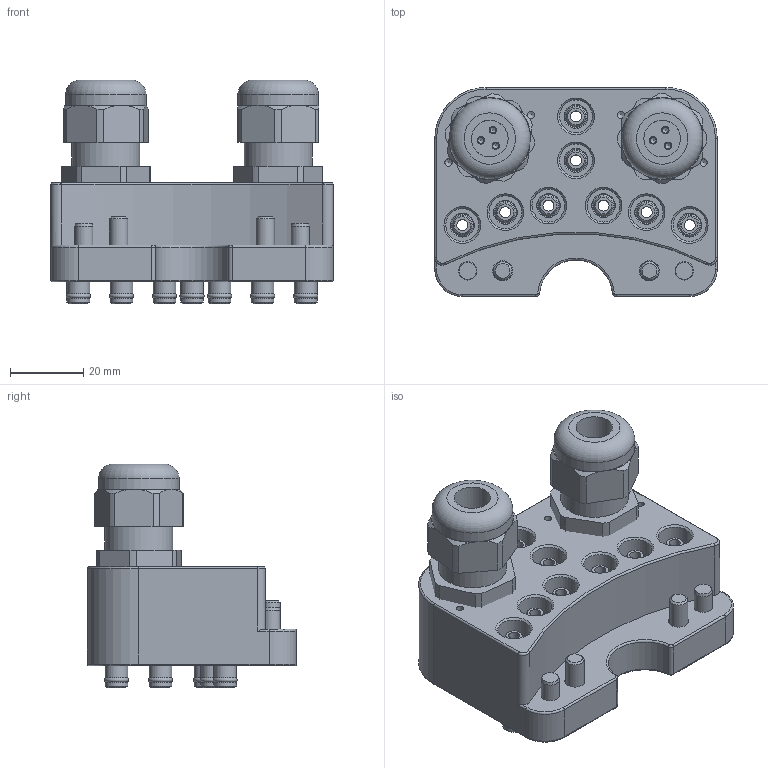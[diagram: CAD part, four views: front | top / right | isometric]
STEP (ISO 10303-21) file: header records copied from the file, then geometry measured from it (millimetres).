
FILE_DESCRIPTION(/* description */ (''),/* implementation_level */ '2;1');
FILE_NAME(/* name */ '\\dc01\daten\CAD\Standard\Daten\3D-Datenbank\Webseite 2020\MGW\MGW160\G-MEK160-O-8Pk4-2E12.stp',/* time_stamp */ '2020-04-29T11:48:45+02:00',/* author */ ('Splieth'),/* organization */ (''),/* preprocessor_version */ 'ST-DEVELOPER v17',/* originating_system */ 'Autodesk Inventor 2018',/* authorisation */ '');
FILE_SCHEMA (('AUTOMOTIVE_DESIGN { 1 0 10303 214 3 1 1 }'));
Length unit declared in the file: millimetre
Products named in the file (1): G-MEK160-O-8Pk4-2E12
Bounding box: 77 x 57 x 61 mm (x, y, z)
Volume: 94590.7 mm3; surface area: 49643.4 mm2
Topology: 51 solids, 51 shells, 841 faces, 2228 edges, 1551 vertices
Faces by surface type: cylinder 338, plane 328, cone 118, torus 29, sphere 24, bspline 4
Full cylindrical faces by diameter (mm): 1 x24, 1.6 x24, 2 x50, 2.013 x4, 2.7 x24, 3 x8, 4 x8, 4.2 x8, 4.8 x8, 5 x4, 5.02 x2, 5.5 x10, 5.9 x8, 6 x8, 6.2 x16, 8 x8, 8.3 x8, 8.5 x2, 9 x8, 10 x4, 14 x2, 15.9 x2, 17.1 x2, 18.1 x2, 18.5 x2, 22 x2, 23 x4, 25.5 x2
Entity records: 29040 total; most frequent: CARTESIAN_POINT 5975, DIRECTION 5012, ORIENTED_EDGE 4348, EDGE_CURVE 2174, AXIS2_PLACEMENT_3D 2090, VERTEX_POINT 1551, CIRCLE 1252, EDGE_LOOP 1077
